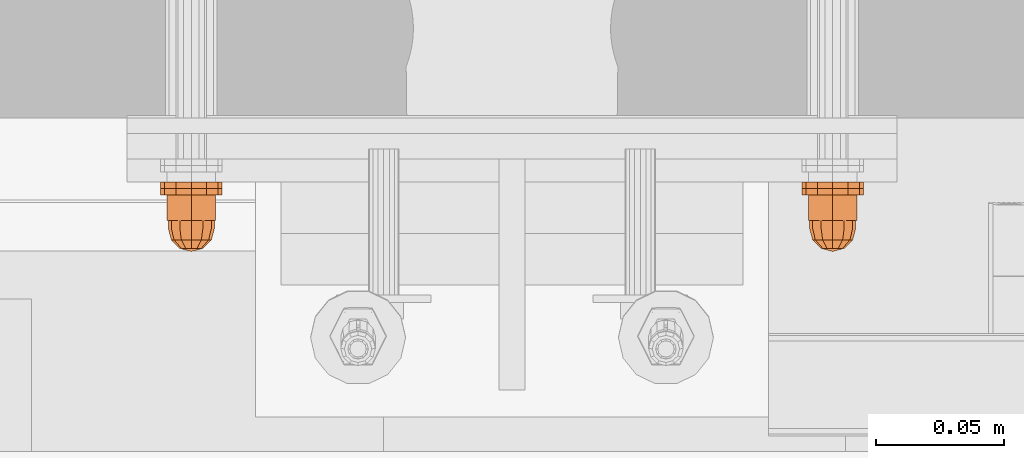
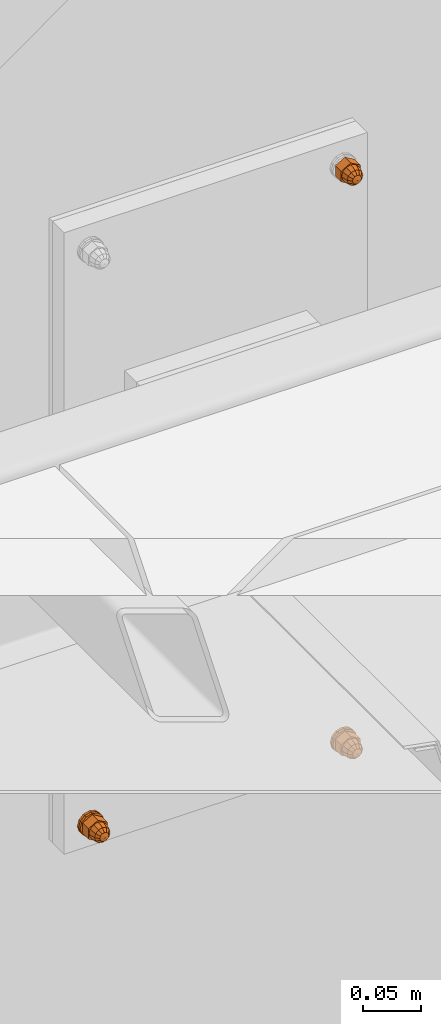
# One storey, part 155 of 162: 7 proxies.
"""IFC2X3 building model written with IfcOpenShell, lengths in millimetres."""

from ifc_helpers import new_model, entity, si_unit, converted_unit, origin_with_axes, place, context, project, spatial, faceted_brep, material, element, save


model = new_model("IFC2X3")

# Units and contexts
model_context = context("Model", 3, precision=1e-09, world=origin_with_axes())
ifc_project = project(units=[si_unit("LENGTHUNIT", "METRE", prefix="MILLI"), si_unit("AREAUNIT", "SQUARE_METRE"), si_unit("VOLUMEUNIT", "CUBIC_METRE"), converted_unit("PLANEANGLEUNIT", "DEGREE", entity("IfcPlaneAngleMeasure", 0.01745329), si_unit("PLANEANGLEUNIT", "RADIAN"), dimensions=[0, 0, 0, 0, 0, 0, 0])], contexts=[model_context])

# Site, building, storey
site_placement = place(None, origin_with_axes())
site = spatial("IfcSite", under=ifc_project, at=site_placement, Name="Hermannstra?e 1a, 60318 Frankfurt", CompositionType="ELEMENT")
building_placement = place(site_placement, origin_with_axes())
building = spatial("IfcBuilding", under=site, at=building_placement, Name="Struktur 1", CompositionType="ELEMENT")
storey_placement = place(building_placement, origin_with_axes())
storey = spatial("IfcBuildingStorey", under=building, at=storey_placement, Name="Default Storey", CompositionType="ELEMENT", Elevation=0.0)

# Proxies
ifc_material_1 = material(Name="Kunststoff")
proxy_1_placement = place(None, origin_with_axes())
element("IfcBuildingElementProxy", 1, at=proxy_1_placement, inside=storey, material=ifc_material_1, ObjectType="-", context=model_context, shape_type="Brep", body=[
    faceted_brep([(5708.700962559, 2710.608666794, 7311.0), (5708.700962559, 2708.108666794, 7311.0), (5710.308657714, 2708.108666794, 7305.0), (5710.308657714, 2710.608666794, 7305.0), (5703.937822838, 2710.608666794, 7308.25), (5701.558657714, 2710.608666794, 7310.629165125), (5698.308657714, 2710.608666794, 7311.5), (5695.058657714, 2710.608666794, 7310.629165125), (5692.679492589, 2710.608666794, 7308.25), (5691.808657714, 2710.608666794, 7305.0), (5692.679492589, 2710.608666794, 7301.75), (5695.058657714, 2710.608666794, 7299.370834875), (5698.308657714, 2710.608666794, 7298.5), (5701.558657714, 2710.608666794, 7299.370834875), (5703.937822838, 2710.608666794, 7301.75), (5704.808657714, 2710.608666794, 7305.0), (5704.808657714, 2708.108666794, 7305.0), (5703.937822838, 2708.108666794, 7308.25), (5704.308657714, 2708.108666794, 7315.392304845), (5698.308657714, 2708.108666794, 7317.0), (5692.308657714, 2708.108666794, 7315.392304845), (5687.916352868, 2708.108666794, 7311.0), (5686.308657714, 2708.108666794, 7305.0), (5687.916352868, 2708.108666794, 7299.0), (5692.308657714, 2708.108666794, 7294.607695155), (5698.308657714, 2708.108666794, 7293.0), (5704.308657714, 2708.108666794, 7294.607695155), (5708.700962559, 2708.108666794, 7299.0), (5704.308657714, 2710.608666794, 7315.392304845), (5703.937822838, 2708.108666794, 7301.75), (5708.700962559, 2710.608666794, 7299.0), (5701.558657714, 2708.108666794, 7310.629165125), (5698.308657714, 2710.608666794, 7317.0), (5701.558657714, 2708.108666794, 7299.370834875), (5704.308657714, 2710.608666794, 7294.607695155), (5698.308657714, 2708.108666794, 7311.5), (5698.308657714, 2708.108666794, 7298.5), (5692.308657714, 2710.608666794, 7315.392304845), (5695.058657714, 2708.108666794, 7310.629165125), (5698.308657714, 2710.608666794, 7293.0), (5695.058657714, 2708.108666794, 7299.370834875), (5687.916352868, 2710.608666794, 7311.0), (5692.679492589, 2708.108666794, 7308.25), (5692.308657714, 2710.608666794, 7294.607695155), (5692.679492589, 2708.108666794, 7301.75), (5686.308657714, 2710.608666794, 7305.0), (5691.808657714, 2708.108666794, 7305.0), (5687.916352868, 2710.608666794, 7299.0)], [[[0, 1, 2, 3]], [[4, 5, 6, 7, 8, 9, 10, 11, 12, 13, 14, 15]], [[15, 16, 17, 4]], [[1, 18, 19, 20, 21, 22, 23, 24, 25, 26, 27, 2]], [[1, 0, 28, 18]], [[16, 15, 14, 29]], [[3, 2, 27, 30]], [[4, 17, 31, 5]], [[18, 28, 32, 19]], [[29, 14, 13, 33]], [[30, 27, 26, 34]], [[5, 31, 35, 6]], [[33, 13, 12, 36]], [[19, 32, 37, 20]], [[6, 35, 38, 7]], [[34, 26, 25, 39]], [[36, 12, 11, 40]], [[20, 37, 41, 21]], [[7, 38, 42, 8]], [[39, 25, 24, 43]], [[40, 11, 10, 44]], [[21, 41, 45, 22]], [[8, 42, 46, 9]], [[43, 24, 23, 47]], [[44, 10, 9, 46]], [[22, 45, 47, 23]]]),
])
ifc_material_2 = material(Name="A4")
proxy_2_placement = place(None, origin_with_axes())
element("IfcBuildingElementProxy", 2, at=proxy_2_placement, inside=storey, material=ifc_material_2, ObjectType="-", context=model_context, shape_type="Brep", body=[
    faceted_brep([(5687.916352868, 2708.108666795, 7311.0), (5687.916352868, 2705.608666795, 7311.0), (5692.308657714, 2705.608666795, 7315.392304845), (5692.308657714, 2708.108666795, 7315.392304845), (5686.308657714, 2705.608666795, 7305.0), (5687.916352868, 2705.608666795, 7299.0), (5692.308657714, 2705.608666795, 7294.607695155), (5698.308657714, 2705.608666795, 7293.0), (5704.308657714, 2705.608666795, 7294.607695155), (5708.700962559, 2705.608666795, 7299.0), (5710.308657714, 2705.608666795, 7305.0), (5708.700962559, 2705.608666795, 7311.0), (5704.308657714, 2705.608666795, 7315.392304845), (5698.308657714, 2705.608666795, 7317.0), (5698.308657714, 2705.608666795, 7311.5), (5701.558657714, 2705.608666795, 7310.629165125), (5703.937822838, 2705.608666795, 7308.25), (5704.808657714, 2705.608666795, 7305.0), (5703.937822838, 2705.608666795, 7301.75), (5701.558657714, 2705.608666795, 7299.370834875), (5698.308657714, 2705.608666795, 7298.5), (5695.058657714, 2705.608666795, 7299.370834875), (5692.679492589, 2705.608666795, 7301.75), (5691.808657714, 2705.608666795, 7305.0), (5692.679492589, 2705.608666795, 7308.25), (5695.058657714, 2705.608666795, 7310.629165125), (5692.679492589, 2708.108666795, 7308.25), (5691.808657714, 2708.108666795, 7305.0), (5692.679492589, 2708.108666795, 7301.75), (5695.058657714, 2708.108666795, 7299.370834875), (5698.308657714, 2708.108666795, 7298.5), (5701.558657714, 2708.108666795, 7299.370834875), (5703.937822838, 2708.108666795, 7301.75), (5704.808657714, 2708.108666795, 7305.0), (5703.937822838, 2708.108666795, 7308.25), (5701.558657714, 2708.108666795, 7310.629165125), (5698.308657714, 2708.108666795, 7311.5), (5695.058657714, 2708.108666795, 7310.629165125), (5686.308657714, 2708.108666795, 7305.0), (5698.308657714, 2708.108666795, 7317.0), (5687.916352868, 2708.108666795, 7299.0), (5704.308657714, 2708.108666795, 7315.392304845), (5692.308657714, 2708.108666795, 7294.607695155), (5708.700962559, 2708.108666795, 7311.0), (5698.308657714, 2708.108666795, 7293.0), (5710.308657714, 2708.108666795, 7305.0), (5704.308657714, 2708.108666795, 7294.607695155), (5708.700962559, 2708.108666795, 7299.0)], [[[0, 1, 2, 3]], [[2, 1, 4, 5, 6, 7, 8, 9, 10, 11, 12, 13], [14, 15, 16, 17, 18, 19, 20, 21, 22, 23, 24, 25]], [[26, 27, 28, 29, 30, 31, 32, 33, 34, 35, 36, 37]], [[24, 26, 37, 25]], [[1, 0, 38, 4]], [[26, 24, 23, 27]], [[25, 37, 36, 14]], [[3, 2, 13, 39]], [[4, 38, 40, 5]], [[27, 23, 22, 28]], [[14, 36, 35, 15]], [[39, 13, 12, 41]], [[5, 40, 42, 6]], [[28, 22, 21, 29]], [[15, 35, 34, 16]], [[41, 12, 11, 43]], [[33, 17, 16, 34]], [[6, 42, 44, 7]], [[29, 21, 20, 30]], [[32, 18, 17, 33]], [[43, 11, 10, 45]], [[19, 31, 30, 20]], [[18, 32, 31, 19]], [[7, 44, 46, 8]], [[45, 10, 9, 47]], [[8, 46, 47, 9]]]),
])
proxy_3_placement = place(None, origin_with_axes())
element("IfcBuildingElementProxy", 3, at=proxy_3_placement, inside=storey, material=ifc_material_2, ObjectType="-", context=model_context, shape_type="Brep", body=[
    faceted_brep([(5704.308657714, 2695.608666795, 7305.0), (5704.308657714, 2705.608666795, 7305.0), (5703.504810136, 2705.608666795, 7302.0), (5703.504810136, 2695.608666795, 7302.0), (5701.308657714, 2705.608666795, 7299.803847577), (5701.308657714, 2695.608666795, 7299.803847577), (5703.504810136, 2695.608666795, 7308.0), (5703.504810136, 2705.608666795, 7308.0), (5707.788526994, 2705.608666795, 7310.473205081), (5707.788526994, 2705.608666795, 7299.526794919), (5698.308657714, 2705.608666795, 7294.053589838), (5688.828788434, 2705.608666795, 7299.526794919), (5688.828788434, 2705.608666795, 7310.473205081), (5698.308657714, 2705.608666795, 7315.946410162), (5701.308657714, 2705.608666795, 7310.196152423), (5698.308657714, 2705.608666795, 7311.0), (5695.308657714, 2705.608666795, 7310.196152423), (5693.112505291, 2705.608666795, 7308.0), (5692.308657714, 2705.608666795, 7305.0), (5693.112505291, 2705.608666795, 7302.0), (5695.308657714, 2705.608666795, 7299.803847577), (5698.308657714, 2705.608666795, 7299.0), (5707.788526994, 2695.608666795, 7310.473205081), (5698.308657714, 2695.608666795, 7315.946410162), (5688.828788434, 2695.608666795, 7310.473205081), (5688.828788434, 2695.608666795, 7299.526794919), (5698.308657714, 2695.608666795, 7294.053589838), (5707.788526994, 2695.608666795, 7299.526794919), (5701.308657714, 2695.608666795, 7310.196152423), (5698.308657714, 2695.608666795, 7299.0), (5698.308657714, 2695.608666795, 7311.0), (5695.308657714, 2695.608666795, 7299.803847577), (5695.308657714, 2695.608666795, 7310.196152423), (5693.112505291, 2695.608666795, 7302.0), (5693.112505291, 2695.608666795, 7308.0), (5692.308657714, 2695.608666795, 7305.0)], [[[0, 1, 2, 3]], [[3, 2, 4, 5]], [[1, 0, 6, 7]], [[8, 9, 10, 11, 12, 13], [7, 14, 15, 16, 17, 18, 19, 20, 21, 4, 2, 1]], [[22, 23, 24, 25, 26, 27]], [[7, 6, 28, 14]], [[22, 27, 9, 8]], [[5, 4, 21, 29]], [[10, 9, 27, 26]], [[14, 28, 30, 15]], [[23, 22, 8, 13]], [[29, 21, 20, 31]], [[11, 10, 26, 25]], [[15, 30, 32, 16]], [[24, 23, 13, 12]], [[31, 20, 19, 33]], [[25, 24, 12, 11]], [[16, 32, 34, 17]], [[33, 19, 18, 35]], [[17, 34, 35, 18]]]),
    faceted_brep([(5698.308657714, 2692.608666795, 7314.0), (5698.308657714, 2695.608666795, 7314.0), (5693.808657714, 2695.608666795, 7312.794228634), (5693.808657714, 2692.608666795, 7312.794228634), (5702.808657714, 2692.608666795, 7312.794228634), (5702.808657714, 2695.608666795, 7312.794228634), (5702.808657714, 2692.608666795, 7297.205771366), (5706.102886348, 2692.608666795, 7300.5), (5707.308657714, 2692.608666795, 7305.0), (5706.102886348, 2692.608666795, 7309.5), (5690.51442908, 2692.608666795, 7309.5), (5689.308657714, 2692.608666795, 7305.0), (5690.51442908, 2692.608666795, 7300.5), (5693.808657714, 2692.608666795, 7297.205771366), (5698.308657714, 2692.608666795, 7296.0), (5693.808657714, 2695.608666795, 7297.205771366), (5690.51442908, 2695.608666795, 7300.5), (5689.308657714, 2695.608666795, 7305.0), (5690.51442908, 2695.608666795, 7309.5), (5706.102886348, 2695.608666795, 7309.5), (5707.308657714, 2695.608666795, 7305.0), (5706.102886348, 2695.608666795, 7300.5), (5702.808657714, 2695.608666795, 7297.205771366), (5698.308657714, 2695.608666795, 7296.0)], [[[0, 1, 2, 3]], [[1, 0, 4, 5]], [[6, 7, 8, 9, 4, 0, 3, 10, 11, 12, 13, 14]], [[15, 16, 17, 18, 2, 1, 5, 19, 20, 21, 22, 23]], [[3, 2, 18, 10]], [[5, 4, 9, 19]], [[10, 18, 17, 11]], [[19, 9, 8, 20]], [[22, 6, 14, 23]], [[7, 21, 20, 8]], [[6, 22, 21, 7]], [[11, 17, 16, 12]], [[23, 14, 13, 15]], [[12, 16, 15, 13]]]),
    faceted_brep([(5705.058657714, 2688.108666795, 7308.897114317), (5706.102886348, 2692.608666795, 7309.5), (5702.808657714, 2692.608666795, 7312.794228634), (5702.205772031, 2688.108666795, 7311.75), (5693.808657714, 2692.608666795, 7297.205771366), (5690.51442908, 2692.608666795, 7300.5), (5689.308657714, 2692.608666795, 7305.0), (5690.51442908, 2692.608666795, 7309.5), (5693.808657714, 2692.608666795, 7312.794228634), (5698.308657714, 2692.608666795, 7314.0), (5707.308657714, 2692.608666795, 7305.0), (5706.102886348, 2692.608666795, 7300.5), (5702.808657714, 2692.608666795, 7297.205771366), (5698.308657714, 2692.608666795, 7296.0), (5698.308657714, 2688.108666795, 7312.794228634), (5702.808657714, 2684.81443816, 7305.0), (5706.102886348, 2688.108666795, 7305.0), (5702.205772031, 2684.81443816, 7307.25), (5694.411543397, 2688.108666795, 7311.75), (5700.558657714, 2684.81443816, 7308.897114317), (5702.205772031, 2684.81443816, 7302.75), (5705.058657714, 2688.108666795, 7301.102885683), (5698.308657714, 2684.81443816, 7309.5), (5698.308657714, 2683.608666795, 7305.0), (5700.558657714, 2684.81443816, 7301.102885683), (5702.205772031, 2688.108666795, 7298.25), (5698.308657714, 2688.108666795, 7297.205771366), (5691.558657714, 2688.108666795, 7308.897114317), (5696.058657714, 2684.81443816, 7308.897114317), (5698.308657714, 2684.81443816, 7300.5), (5694.411543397, 2688.108666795, 7298.25), (5696.058657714, 2684.81443816, 7301.102885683), (5690.51442908, 2688.108666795, 7305.0), (5694.411543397, 2684.81443816, 7307.25), (5691.558657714, 2688.108666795, 7301.102885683), (5694.411543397, 2684.81443816, 7302.75), (5693.808657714, 2684.81443816, 7305.0)], [[[0, 1, 2, 3]], [[4, 5, 6, 7, 8, 9, 2, 1, 10, 11, 12, 13]], [[3, 2, 9, 14]], [[15, 16, 0, 17]], [[1, 0, 16, 10]], [[14, 9, 8, 18]], [[17, 0, 3, 19]], [[16, 15, 20, 21]], [[19, 3, 14, 22]], [[17, 23, 15]], [[24, 25, 21, 20]], [[15, 23, 20]], [[12, 25, 26, 13]], [[11, 21, 25, 12]], [[10, 16, 21, 11]], [[18, 8, 7, 27]], [[22, 14, 18, 28]], [[19, 23, 17]], [[29, 26, 25, 24]], [[20, 23, 24]], [[22, 23, 19]], [[13, 26, 30, 4]], [[26, 29, 31, 30]], [[24, 23, 29]], [[27, 7, 6, 32]], [[28, 18, 27, 33]], [[28, 23, 22]], [[29, 23, 31]], [[33, 23, 28]], [[4, 30, 34, 5]], [[30, 31, 35, 34]], [[31, 23, 35]], [[32, 6, 5, 34]], [[33, 27, 32, 36]], [[36, 23, 33]], [[35, 23, 36]], [[34, 35, 36, 32]]]),
])
proxy_4_placement = place(None, origin_with_axes())
element("IfcBuildingElementProxy", 4, at=proxy_4_placement, inside=storey, material=ifc_material_1, ObjectType="-", context=model_context, shape_type="Brep", body=[
    faceted_brep([(5458.700962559, 2710.608666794, 7311.0), (5458.700962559, 2708.108666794, 7311.0), (5460.308657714, 2708.108666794, 7305.0), (5460.308657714, 2710.608666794, 7305.0), (5453.937822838, 2710.608666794, 7308.25), (5451.558657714, 2710.608666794, 7310.629165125), (5448.308657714, 2710.608666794, 7311.5), (5445.058657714, 2710.608666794, 7310.629165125), (5442.679492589, 2710.608666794, 7308.25), (5441.808657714, 2710.608666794, 7305.0), (5442.679492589, 2710.608666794, 7301.75), (5445.058657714, 2710.608666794, 7299.370834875), (5448.308657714, 2710.608666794, 7298.5), (5451.558657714, 2710.608666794, 7299.370834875), (5453.937822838, 2710.608666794, 7301.75), (5454.808657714, 2710.608666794, 7305.0), (5454.808657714, 2708.108666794, 7305.0), (5453.937822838, 2708.108666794, 7308.25), (5454.308657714, 2708.108666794, 7315.392304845), (5448.308657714, 2708.108666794, 7317.0), (5442.308657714, 2708.108666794, 7315.392304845), (5437.916352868, 2708.108666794, 7311.0), (5436.308657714, 2708.108666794, 7305.0), (5437.916352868, 2708.108666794, 7299.0), (5442.308657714, 2708.108666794, 7294.607695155), (5448.308657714, 2708.108666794, 7293.0), (5454.308657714, 2708.108666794, 7294.607695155), (5458.700962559, 2708.108666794, 7299.0), (5454.308657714, 2710.608666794, 7315.392304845), (5453.937822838, 2708.108666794, 7301.75), (5458.700962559, 2710.608666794, 7299.0), (5451.558657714, 2708.108666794, 7310.629165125), (5448.308657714, 2710.608666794, 7317.0), (5451.558657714, 2708.108666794, 7299.370834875), (5454.308657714, 2710.608666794, 7294.607695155), (5448.308657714, 2708.108666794, 7311.5), (5448.308657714, 2708.108666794, 7298.5), (5442.308657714, 2710.608666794, 7315.392304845), (5445.058657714, 2708.108666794, 7310.629165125), (5448.308657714, 2710.608666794, 7293.0), (5445.058657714, 2708.108666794, 7299.370834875), (5437.916352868, 2710.608666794, 7311.0), (5442.679492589, 2708.108666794, 7308.25), (5442.308657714, 2710.608666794, 7294.607695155), (5442.679492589, 2708.108666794, 7301.75), (5436.308657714, 2710.608666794, 7305.0), (5441.808657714, 2708.108666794, 7305.0), (5437.916352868, 2710.608666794, 7299.0)], [[[0, 1, 2, 3]], [[4, 5, 6, 7, 8, 9, 10, 11, 12, 13, 14, 15]], [[15, 16, 17, 4]], [[1, 18, 19, 20, 21, 22, 23, 24, 25, 26, 27, 2]], [[1, 0, 28, 18]], [[16, 15, 14, 29]], [[3, 2, 27, 30]], [[4, 17, 31, 5]], [[18, 28, 32, 19]], [[29, 14, 13, 33]], [[30, 27, 26, 34]], [[5, 31, 35, 6]], [[33, 13, 12, 36]], [[19, 32, 37, 20]], [[6, 35, 38, 7]], [[34, 26, 25, 39]], [[36, 12, 11, 40]], [[20, 37, 41, 21]], [[7, 38, 42, 8]], [[39, 25, 24, 43]], [[40, 11, 10, 44]], [[21, 41, 45, 22]], [[8, 42, 46, 9]], [[43, 24, 23, 47]], [[44, 10, 9, 46]], [[22, 45, 47, 23]]]),
])
proxy_5_placement = place(None, origin_with_axes())
element("IfcBuildingElementProxy", 5, at=proxy_5_placement, inside=storey, material=ifc_material_2, ObjectType="-", context=model_context, shape_type="Brep", body=[
    faceted_brep([(5437.916352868, 2708.108666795, 7311.0), (5437.916352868, 2705.608666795, 7311.0), (5442.308657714, 2705.608666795, 7315.392304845), (5442.308657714, 2708.108666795, 7315.392304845), (5436.308657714, 2705.608666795, 7305.0), (5437.916352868, 2705.608666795, 7299.0), (5442.308657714, 2705.608666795, 7294.607695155), (5448.308657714, 2705.608666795, 7293.0), (5454.308657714, 2705.608666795, 7294.607695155), (5458.700962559, 2705.608666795, 7299.0), (5460.308657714, 2705.608666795, 7305.0), (5458.700962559, 2705.608666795, 7311.0), (5454.308657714, 2705.608666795, 7315.392304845), (5448.308657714, 2705.608666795, 7317.0), (5448.308657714, 2705.608666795, 7311.5), (5451.558657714, 2705.608666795, 7310.629165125), (5453.937822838, 2705.608666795, 7308.25), (5454.808657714, 2705.608666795, 7305.0), (5453.937822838, 2705.608666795, 7301.75), (5451.558657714, 2705.608666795, 7299.370834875), (5448.308657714, 2705.608666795, 7298.5), (5445.058657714, 2705.608666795, 7299.370834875), (5442.679492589, 2705.608666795, 7301.75), (5441.808657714, 2705.608666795, 7305.0), (5442.679492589, 2705.608666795, 7308.25), (5445.058657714, 2705.608666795, 7310.629165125), (5442.679492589, 2708.108666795, 7308.25), (5441.808657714, 2708.108666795, 7305.0), (5442.679492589, 2708.108666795, 7301.75), (5445.058657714, 2708.108666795, 7299.370834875), (5448.308657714, 2708.108666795, 7298.5), (5451.558657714, 2708.108666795, 7299.370834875), (5453.937822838, 2708.108666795, 7301.75), (5454.808657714, 2708.108666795, 7305.0), (5453.937822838, 2708.108666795, 7308.25), (5451.558657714, 2708.108666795, 7310.629165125), (5448.308657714, 2708.108666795, 7311.5), (5445.058657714, 2708.108666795, 7310.629165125), (5436.308657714, 2708.108666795, 7305.0), (5448.308657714, 2708.108666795, 7317.0), (5437.916352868, 2708.108666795, 7299.0), (5454.308657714, 2708.108666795, 7315.392304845), (5442.308657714, 2708.108666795, 7294.607695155), (5458.700962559, 2708.108666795, 7311.0), (5448.308657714, 2708.108666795, 7293.0), (5460.308657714, 2708.108666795, 7305.0), (5454.308657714, 2708.108666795, 7294.607695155), (5458.700962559, 2708.108666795, 7299.0)], [[[0, 1, 2, 3]], [[2, 1, 4, 5, 6, 7, 8, 9, 10, 11, 12, 13], [14, 15, 16, 17, 18, 19, 20, 21, 22, 23, 24, 25]], [[26, 27, 28, 29, 30, 31, 32, 33, 34, 35, 36, 37]], [[24, 26, 37, 25]], [[1, 0, 38, 4]], [[26, 24, 23, 27]], [[25, 37, 36, 14]], [[3, 2, 13, 39]], [[4, 38, 40, 5]], [[27, 23, 22, 28]], [[14, 36, 35, 15]], [[39, 13, 12, 41]], [[5, 40, 42, 6]], [[28, 22, 21, 29]], [[15, 35, 34, 16]], [[41, 12, 11, 43]], [[33, 17, 16, 34]], [[6, 42, 44, 7]], [[29, 21, 20, 30]], [[32, 18, 17, 33]], [[43, 11, 10, 45]], [[19, 31, 30, 20]], [[18, 32, 31, 19]], [[7, 44, 46, 8]], [[45, 10, 9, 47]], [[8, 46, 47, 9]]]),
])
proxy_6_placement = place(None, origin_with_axes())
element("IfcBuildingElementProxy", 6, at=proxy_6_placement, inside=storey, material=ifc_material_2, ObjectType="-", context=model_context, shape_type="Brep", body=[
    faceted_brep([(5454.308657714, 2695.608666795, 7305.0), (5454.308657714, 2705.608666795, 7305.0), (5453.504810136, 2705.608666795, 7302.0), (5453.504810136, 2695.608666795, 7302.0), (5451.308657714, 2705.608666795, 7299.803847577), (5451.308657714, 2695.608666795, 7299.803847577), (5453.504810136, 2695.608666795, 7308.0), (5453.504810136, 2705.608666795, 7308.0), (5457.788526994, 2705.608666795, 7310.473205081), (5457.788526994, 2705.608666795, 7299.526794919), (5448.308657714, 2705.608666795, 7294.053589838), (5438.828788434, 2705.608666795, 7299.526794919), (5438.828788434, 2705.608666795, 7310.473205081), (5448.308657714, 2705.608666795, 7315.946410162), (5451.308657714, 2705.608666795, 7310.196152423), (5448.308657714, 2705.608666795, 7311.0), (5445.308657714, 2705.608666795, 7310.196152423), (5443.112505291, 2705.608666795, 7308.0), (5442.308657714, 2705.608666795, 7305.0), (5443.112505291, 2705.608666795, 7302.0), (5445.308657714, 2705.608666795, 7299.803847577), (5448.308657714, 2705.608666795, 7299.0), (5457.788526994, 2695.608666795, 7310.473205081), (5448.308657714, 2695.608666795, 7315.946410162), (5438.828788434, 2695.608666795, 7310.473205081), (5438.828788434, 2695.608666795, 7299.526794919), (5448.308657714, 2695.608666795, 7294.053589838), (5457.788526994, 2695.608666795, 7299.526794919), (5451.308657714, 2695.608666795, 7310.196152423), (5448.308657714, 2695.608666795, 7299.0), (5448.308657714, 2695.608666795, 7311.0), (5445.308657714, 2695.608666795, 7299.803847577), (5445.308657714, 2695.608666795, 7310.196152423), (5443.112505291, 2695.608666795, 7302.0), (5443.112505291, 2695.608666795, 7308.0), (5442.308657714, 2695.608666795, 7305.0)], [[[0, 1, 2, 3]], [[3, 2, 4, 5]], [[1, 0, 6, 7]], [[8, 9, 10, 11, 12, 13], [7, 14, 15, 16, 17, 18, 19, 20, 21, 4, 2, 1]], [[22, 23, 24, 25, 26, 27]], [[7, 6, 28, 14]], [[22, 27, 9, 8]], [[5, 4, 21, 29]], [[10, 9, 27, 26]], [[14, 28, 30, 15]], [[23, 22, 8, 13]], [[29, 21, 20, 31]], [[11, 10, 26, 25]], [[15, 30, 32, 16]], [[24, 23, 13, 12]], [[31, 20, 19, 33]], [[25, 24, 12, 11]], [[16, 32, 34, 17]], [[33, 19, 18, 35]], [[17, 34, 35, 18]]]),
    faceted_brep([(5448.308657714, 2692.608666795, 7314.0), (5448.308657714, 2695.608666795, 7314.0), (5443.808657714, 2695.608666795, 7312.794228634), (5443.808657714, 2692.608666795, 7312.794228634), (5452.808657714, 2692.608666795, 7312.794228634), (5452.808657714, 2695.608666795, 7312.794228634), (5452.808657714, 2692.608666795, 7297.205771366), (5456.102886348, 2692.608666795, 7300.5), (5457.308657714, 2692.608666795, 7305.0), (5456.102886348, 2692.608666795, 7309.5), (5440.51442908, 2692.608666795, 7309.5), (5439.308657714, 2692.608666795, 7305.0), (5440.51442908, 2692.608666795, 7300.5), (5443.808657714, 2692.608666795, 7297.205771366), (5448.308657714, 2692.608666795, 7296.0), (5443.808657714, 2695.608666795, 7297.205771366), (5440.51442908, 2695.608666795, 7300.5), (5439.308657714, 2695.608666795, 7305.0), (5440.51442908, 2695.608666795, 7309.5), (5456.102886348, 2695.608666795, 7309.5), (5457.308657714, 2695.608666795, 7305.0), (5456.102886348, 2695.608666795, 7300.5), (5452.808657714, 2695.608666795, 7297.205771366), (5448.308657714, 2695.608666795, 7296.0)], [[[0, 1, 2, 3]], [[1, 0, 4, 5]], [[6, 7, 8, 9, 4, 0, 3, 10, 11, 12, 13, 14]], [[15, 16, 17, 18, 2, 1, 5, 19, 20, 21, 22, 23]], [[3, 2, 18, 10]], [[5, 4, 9, 19]], [[10, 18, 17, 11]], [[19, 9, 8, 20]], [[22, 6, 14, 23]], [[7, 21, 20, 8]], [[6, 22, 21, 7]], [[11, 17, 16, 12]], [[23, 14, 13, 15]], [[12, 16, 15, 13]]]),
    faceted_brep([(5455.058657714, 2688.108666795, 7308.897114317), (5456.102886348, 2692.608666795, 7309.5), (5452.808657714, 2692.608666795, 7312.794228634), (5452.205772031, 2688.108666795, 7311.75), (5443.808657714, 2692.608666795, 7297.205771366), (5440.51442908, 2692.608666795, 7300.5), (5439.308657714, 2692.608666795, 7305.0), (5440.51442908, 2692.608666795, 7309.5), (5443.808657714, 2692.608666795, 7312.794228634), (5448.308657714, 2692.608666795, 7314.0), (5457.308657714, 2692.608666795, 7305.0), (5456.102886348, 2692.608666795, 7300.5), (5452.808657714, 2692.608666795, 7297.205771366), (5448.308657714, 2692.608666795, 7296.0), (5448.308657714, 2688.108666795, 7312.794228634), (5452.808657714, 2684.81443816, 7305.0), (5456.102886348, 2688.108666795, 7305.0), (5452.205772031, 2684.81443816, 7307.25), (5444.411543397, 2688.108666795, 7311.75), (5450.558657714, 2684.81443816, 7308.897114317), (5452.205772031, 2684.81443816, 7302.75), (5455.058657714, 2688.108666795, 7301.102885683), (5448.308657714, 2684.81443816, 7309.5), (5448.308657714, 2683.608666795, 7305.0), (5450.558657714, 2684.81443816, 7301.102885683), (5452.205772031, 2688.108666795, 7298.25), (5448.308657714, 2688.108666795, 7297.205771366), (5441.558657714, 2688.108666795, 7308.897114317), (5446.058657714, 2684.81443816, 7308.897114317), (5448.308657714, 2684.81443816, 7300.5), (5444.411543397, 2688.108666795, 7298.25), (5446.058657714, 2684.81443816, 7301.102885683), (5440.51442908, 2688.108666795, 7305.0), (5444.411543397, 2684.81443816, 7307.25), (5441.558657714, 2688.108666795, 7301.102885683), (5444.411543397, 2684.81443816, 7302.75), (5443.808657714, 2684.81443816, 7305.0)], [[[0, 1, 2, 3]], [[4, 5, 6, 7, 8, 9, 2, 1, 10, 11, 12, 13]], [[3, 2, 9, 14]], [[15, 16, 0, 17]], [[1, 0, 16, 10]], [[14, 9, 8, 18]], [[17, 0, 3, 19]], [[16, 15, 20, 21]], [[19, 3, 14, 22]], [[17, 23, 15]], [[24, 25, 21, 20]], [[15, 23, 20]], [[12, 25, 26, 13]], [[11, 21, 25, 12]], [[10, 16, 21, 11]], [[18, 8, 7, 27]], [[22, 14, 18, 28]], [[19, 23, 17]], [[29, 26, 25, 24]], [[20, 23, 24]], [[22, 23, 19]], [[13, 26, 30, 4]], [[26, 29, 31, 30]], [[24, 23, 29]], [[27, 7, 6, 32]], [[28, 18, 27, 33]], [[28, 23, 22]], [[29, 23, 31]], [[33, 23, 28]], [[4, 30, 34, 5]], [[30, 31, 35, 34]], [[31, 23, 35]], [[32, 6, 5, 34]], [[33, 27, 32, 36]], [[36, 23, 33]], [[35, 23, 36]], [[34, 35, 36, 32]]]),
])
proxy_7_placement = place(None, origin_with_axes())
element("IfcBuildingElementProxy", 7, at=proxy_7_placement, inside=storey, material=ifc_material_2, ObjectType="-", context=model_context, shape_type="Brep", body=[
    faceted_brep([(5704.308657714, 2705.608666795, 7905.0), (5704.308657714, 2695.608666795, 7905.0), (5703.504810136, 2695.608666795, 7908.0), (5703.504810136, 2705.608666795, 7908.0), (5701.308657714, 2695.608666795, 7910.196152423), (5701.308657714, 2705.608666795, 7910.196152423), (5703.504810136, 2705.608666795, 7902.0), (5703.504810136, 2695.608666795, 7902.0), (5707.788526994, 2705.608666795, 7899.526794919), (5698.308657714, 2705.608666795, 7894.053589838), (5688.828788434, 2705.608666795, 7899.526794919), (5688.828788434, 2705.608666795, 7910.473205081), (5698.308657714, 2705.608666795, 7915.946410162), (5707.788526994, 2705.608666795, 7910.473205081), (5701.308657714, 2705.608666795, 7899.803847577), (5698.308657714, 2705.608666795, 7911.0), (5695.308657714, 2705.608666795, 7910.196152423), (5693.112505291, 2705.608666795, 7908.0), (5692.308657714, 2705.608666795, 7905.0), (5693.112505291, 2705.608666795, 7902.0), (5695.308657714, 2705.608666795, 7899.803847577), (5698.308657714, 2705.608666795, 7899.0), (5698.308657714, 2695.608666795, 7894.053589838), (5707.788526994, 2695.608666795, 7899.526794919), (5707.788526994, 2695.608666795, 7910.473205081), (5698.308657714, 2695.608666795, 7915.946410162), (5688.828788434, 2695.608666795, 7910.473205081), (5688.828788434, 2695.608666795, 7899.526794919), (5701.308657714, 2695.608666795, 7899.803847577), (5698.308657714, 2695.608666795, 7899.0), (5695.308657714, 2695.608666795, 7899.803847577), (5693.112505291, 2695.608666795, 7902.0), (5692.308657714, 2695.608666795, 7905.0), (5693.112505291, 2695.608666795, 7908.0), (5695.308657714, 2695.608666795, 7910.196152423), (5698.308657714, 2695.608666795, 7911.0)], [[[0, 1, 2, 3]], [[3, 2, 4, 5]], [[1, 0, 6, 7]], [[8, 9, 10, 11, 12, 13], [14, 6, 0, 3, 5, 15, 16, 17, 18, 19, 20, 21]], [[22, 23, 24, 25, 26, 27], [1, 7, 28, 29, 30, 31, 32, 33, 34, 35, 4, 2]], [[7, 6, 14, 28]], [[24, 23, 8, 13]], [[5, 4, 35, 15]], [[13, 12, 25, 24]], [[28, 14, 21, 29]], [[23, 22, 9, 8]], [[15, 35, 34, 16]], [[12, 11, 26, 25]], [[29, 21, 20, 30]], [[22, 27, 10, 9]], [[16, 34, 33, 17]], [[27, 26, 11, 10]], [[30, 20, 19, 31]], [[17, 33, 32, 18]], [[31, 19, 18, 32]]]),
    faceted_brep([(5698.308657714, 2695.608666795, 7896.0), (5698.308657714, 2692.608666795, 7896.0), (5693.808657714, 2692.608666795, 7897.205771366), (5693.808657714, 2695.608666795, 7897.205771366), (5702.808657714, 2695.608666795, 7897.205771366), (5702.808657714, 2692.608666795, 7897.205771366), (5706.102886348, 2692.608666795, 7909.5), (5702.808657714, 2692.608666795, 7912.794228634), (5698.308657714, 2692.608666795, 7914.0), (5693.808657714, 2692.608666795, 7912.794228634), (5690.51442908, 2692.608666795, 7909.5), (5689.308657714, 2692.608666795, 7905.0), (5690.51442908, 2692.608666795, 7900.5), (5706.102886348, 2692.608666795, 7900.5), (5707.308657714, 2692.608666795, 7905.0), (5690.51442908, 2695.608666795, 7909.5), (5693.808657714, 2695.608666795, 7912.794228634), (5698.308657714, 2695.608666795, 7914.0), (5702.808657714, 2695.608666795, 7912.794228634), (5706.102886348, 2695.608666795, 7909.5), (5707.308657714, 2695.608666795, 7905.0), (5706.102886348, 2695.608666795, 7900.5), (5690.51442908, 2695.608666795, 7900.5), (5689.308657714, 2695.608666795, 7905.0)], [[[0, 1, 2, 3]], [[1, 0, 4, 5]], [[6, 7, 8, 9, 10, 11, 12, 2, 1, 5, 13, 14]], [[15, 16, 17, 18, 19, 20, 21, 4, 0, 3, 22, 23]], [[3, 2, 12, 22]], [[5, 4, 21, 13]], [[22, 12, 11, 23]], [[13, 21, 20, 14]], [[7, 18, 17, 8]], [[19, 6, 14, 20]], [[18, 7, 6, 19]], [[23, 11, 10, 15]], [[8, 17, 16, 9]], [[15, 10, 9, 16]]]),
    faceted_brep([(5706.102886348, 2692.608666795, 7900.5), (5705.058657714, 2688.108666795, 7901.102885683), (5702.205772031, 2688.108666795, 7898.25), (5702.808657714, 2692.608666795, 7897.205771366), (5690.51442908, 2692.608666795, 7909.5), (5693.808657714, 2692.608666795, 7912.794228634), (5698.308657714, 2692.608666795, 7914.0), (5702.808657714, 2692.608666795, 7912.794228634), (5706.102886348, 2692.608666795, 7909.5), (5707.308657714, 2692.608666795, 7905.0), (5698.308657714, 2692.608666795, 7896.0), (5693.808657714, 2692.608666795, 7897.205771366), (5690.51442908, 2692.608666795, 7900.5), (5689.308657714, 2692.608666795, 7905.0), (5698.308657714, 2688.108666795, 7897.205771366), (5706.102886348, 2688.108666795, 7905.0), (5702.808657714, 2684.81443816, 7905.0), (5702.205772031, 2684.81443816, 7902.75), (5694.411543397, 2688.108666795, 7898.25), (5700.558657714, 2684.81443816, 7901.102885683), (5705.058657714, 2688.108666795, 7908.897114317), (5702.205772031, 2684.81443816, 7907.25), (5698.308657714, 2684.81443816, 7900.5), (5698.308657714, 2683.608666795, 7905.0), (5702.205772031, 2688.108666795, 7911.75), (5700.558657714, 2684.81443816, 7908.897114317), (5698.308657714, 2688.108666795, 7912.794228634), (5691.558657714, 2688.108666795, 7901.102885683), (5696.058657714, 2684.81443816, 7901.102885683), (5698.308657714, 2684.81443816, 7909.5), (5694.411543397, 2688.108666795, 7911.75), (5696.058657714, 2684.81443816, 7908.897114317), (5690.51442908, 2688.108666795, 7905.0), (5694.411543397, 2684.81443816, 7902.75), (5691.558657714, 2688.108666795, 7908.897114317), (5694.411543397, 2684.81443816, 7907.25), (5693.808657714, 2684.81443816, 7905.0)], [[[0, 1, 2, 3]], [[4, 5, 6, 7, 8, 9, 0, 3, 10, 11, 12, 13]], [[3, 2, 14, 10]], [[15, 16, 17, 1]], [[1, 0, 9, 15]], [[10, 14, 18, 11]], [[1, 17, 19, 2]], [[16, 15, 20, 21]], [[2, 19, 22, 14]], [[23, 17, 16]], [[24, 25, 21, 20]], [[23, 16, 21]], [[24, 7, 6, 26]], [[20, 8, 7, 24]], [[15, 9, 8, 20]], [[11, 18, 27, 12]], [[14, 22, 28, 18]], [[23, 19, 17]], [[26, 29, 25, 24]], [[23, 21, 25]], [[23, 22, 19]], [[26, 6, 5, 30]], [[29, 26, 30, 31]], [[23, 25, 29]], [[12, 27, 32, 13]], [[18, 28, 33, 27]], [[23, 28, 22]], [[23, 29, 31]], [[23, 33, 28]], [[30, 5, 4, 34]], [[31, 30, 34, 35]], [[23, 31, 35]], [[13, 32, 34, 4]], [[27, 33, 36, 32]], [[23, 36, 33]], [[23, 35, 36]], [[35, 34, 32, 36]]]),
])

save(model, "model.ifc")
